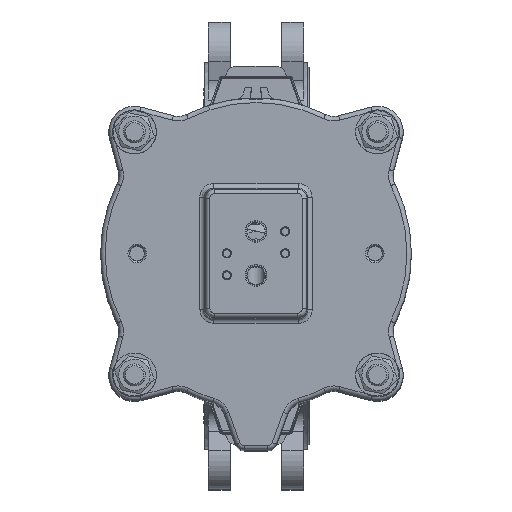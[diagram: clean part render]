
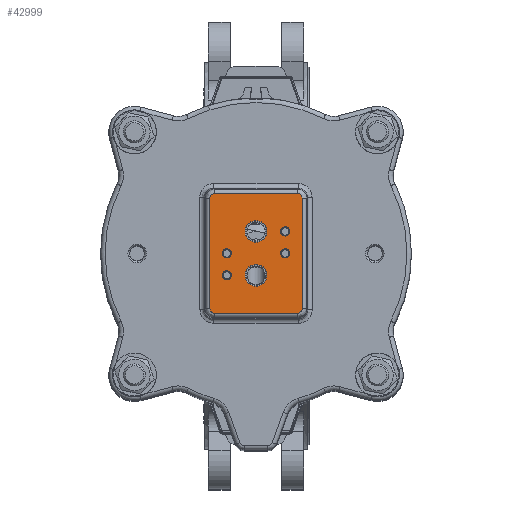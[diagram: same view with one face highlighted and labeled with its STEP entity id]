
A CAD part, top view. The second image highlights one B-rep face of the part: STEP entity #42999.
In plain terms, the highlighted planar face has unit normal (0, 0, 1).
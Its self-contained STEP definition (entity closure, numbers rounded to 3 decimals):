
#903=ELLIPSE('',#46031,2.519,2.5);
#904=ELLIPSE('',#46032,2.519,2.5);
#905=ELLIPSE('',#46033,2.519,2.5);
#906=ELLIPSE('',#46034,2.519,2.5);
#1235=FACE_BOUND('',#12470,.T.);
#1236=FACE_BOUND('',#12471,.T.);
#1237=FACE_BOUND('',#12472,.T.);
#1238=FACE_BOUND('',#12473,.T.);
#1239=FACE_BOUND('',#12474,.T.);
#1240=FACE_BOUND('',#12475,.T.);
#2136=PLANE('',#46030);
#3326=LINE('',#67786,#6154);
#3327=LINE('',#67790,#6155);
#3328=LINE('',#67794,#6156);
#3329=LINE('',#67797,#6157);
#6154=VECTOR('',#52423,10.);
#6155=VECTOR('',#52426,10.);
#6156=VECTOR('',#52429,10.);
#6157=VECTOR('',#52432,10.);
#9815=FACE_OUTER_BOUND('',#12469,.T.);
#12469=EDGE_LOOP('',(#30217,#30218,#30219,#30220,#30221,#30222,#30223,#30224));
#12470=EDGE_LOOP('',(#30225));
#12471=EDGE_LOOP('',(#30226));
#12472=EDGE_LOOP('',(#30227));
#12473=EDGE_LOOP('',(#30228));
#12474=EDGE_LOOP('',(#30229));
#12475=EDGE_LOOP('',(#30230));
#15429=CIRCLE('',#46029,2.5);
#15430=CIRCLE('',#46035,2.5);
#15431=CIRCLE('',#46036,2.5);
#15432=CIRCLE('',#46037,6.);
#15433=CIRCLE('',#46038,6.);
#15434=CIRCLE('',#46039,2.5);
#18309=VERTEX_POINT('',#67778);
#18310=VERTEX_POINT('',#67782);
#18311=VERTEX_POINT('',#67783);
#18312=VERTEX_POINT('',#67785);
#18313=VERTEX_POINT('',#67787);
#18314=VERTEX_POINT('',#67789);
#18315=VERTEX_POINT('',#67791);
#18316=VERTEX_POINT('',#67793);
#18317=VERTEX_POINT('',#67795);
#18318=VERTEX_POINT('',#67798);
#18319=VERTEX_POINT('',#67800);
#18320=VERTEX_POINT('',#67802);
#18321=VERTEX_POINT('',#67804);
#18322=VERTEX_POINT('',#67806);
#22830=EDGE_CURVE('',#18309,#18309,#15429,.T.);
#22831=EDGE_CURVE('',#18310,#18311,#903,.T.);
#22832=EDGE_CURVE('',#18312,#18310,#3326,.T.);
#22833=EDGE_CURVE('',#18313,#18312,#904,.T.);
#22834=EDGE_CURVE('',#18314,#18313,#3327,.T.);
#22835=EDGE_CURVE('',#18315,#18314,#905,.T.);
#22836=EDGE_CURVE('',#18316,#18315,#3328,.T.);
#22837=EDGE_CURVE('',#18317,#18316,#906,.T.);
#22838=EDGE_CURVE('',#18311,#18317,#3329,.T.);
#22839=EDGE_CURVE('',#18318,#18318,#15430,.T.);
#22840=EDGE_CURVE('',#18319,#18319,#15431,.T.);
#22841=EDGE_CURVE('',#18320,#18320,#15432,.T.);
#22842=EDGE_CURVE('',#18321,#18321,#15433,.T.);
#22843=EDGE_CURVE('',#18322,#18322,#15434,.T.);
#30217=ORIENTED_EDGE('',*,*,#22831,.F.);
#30218=ORIENTED_EDGE('',*,*,#22832,.F.);
#30219=ORIENTED_EDGE('',*,*,#22833,.F.);
#30220=ORIENTED_EDGE('',*,*,#22834,.F.);
#30221=ORIENTED_EDGE('',*,*,#22835,.F.);
#30222=ORIENTED_EDGE('',*,*,#22836,.F.);
#30223=ORIENTED_EDGE('',*,*,#22837,.F.);
#30224=ORIENTED_EDGE('',*,*,#22838,.F.);
#30225=ORIENTED_EDGE('',*,*,#22839,.F.);
#30226=ORIENTED_EDGE('',*,*,#22840,.F.);
#30227=ORIENTED_EDGE('',*,*,#22841,.F.);
#30228=ORIENTED_EDGE('',*,*,#22842,.F.);
#30229=ORIENTED_EDGE('',*,*,#22843,.F.);
#30230=ORIENTED_EDGE('',*,*,#22830,.F.);
#42999=ADVANCED_FACE('',(#9815,#1235,#1236,#1237,#1238,#1239,#1240),#2136,
 .F.);
#46029=AXIS2_PLACEMENT_3D('',#67780,#52417,#52418);
#46030=AXIS2_PLACEMENT_3D('',#67781,#52419,#52420);
#46031=AXIS2_PLACEMENT_3D('',#67784,#52421,#52422);
#46032=AXIS2_PLACEMENT_3D('',#67788,#52424,#52425);
#46033=AXIS2_PLACEMENT_3D('',#67792,#52427,#52428);
#46034=AXIS2_PLACEMENT_3D('',#67796,#52430,#52431);
#46035=AXIS2_PLACEMENT_3D('',#67799,#52433,#52434);
#46036=AXIS2_PLACEMENT_3D('',#67801,#52435,#52436);
#46037=AXIS2_PLACEMENT_3D('',#67803,#52437,#52438);
#46038=AXIS2_PLACEMENT_3D('',#67805,#52439,#52440);
#46039=AXIS2_PLACEMENT_3D('',#67807,#52441,#52442);
#52417=DIRECTION('center_axis',(0.,0.,
1.));
#52418=DIRECTION('ref_axis',(0.,1.,0.));
#52419=DIRECTION('center_axis',(0.,0.,
-1.));
#52420=DIRECTION('ref_axis',(0.,1.,0.));
#52421=DIRECTION('center_axis',(0.,0.,
-1.));
#52422=DIRECTION('ref_axis',(-0.707,-0.707,0.));
#52423=DIRECTION('',(-1.,0.,0.));
#52424=DIRECTION('center_axis',(0.,0.,
-1.));
#52425=DIRECTION('ref_axis',(0.707,-0.707,0.));
#52426=DIRECTION('',(0.,-1.,0.));
#52427=DIRECTION('center_axis',(0.,0.,
-1.));
#52428=DIRECTION('ref_axis',(0.707,0.707,0.));
#52429=DIRECTION('',(1.,0.,0.));
#52430=DIRECTION('center_axis',(0.,0.,
-1.));
#52431=DIRECTION('ref_axis',(-0.707,0.707,0.));
#52432=DIRECTION('',(0.,1.,0.));
#52433=DIRECTION('center_axis',(0.,0.,
1.));
#52434=DIRECTION('ref_axis',(0.,1.,0.));
#52435=DIRECTION('center_axis',(0.,0.,
1.));
#52436=DIRECTION('ref_axis',(0.,1.,0.));
#52437=DIRECTION('center_axis',(0.,0.,
1.));
#52438=DIRECTION('ref_axis',(0.,1.,0.));
#52439=DIRECTION('center_axis',(0.,0.,
1.));
#52440=DIRECTION('ref_axis',(0.,1.,0.));
#52441=DIRECTION('center_axis',(0.,0.,
1.));
#52442=DIRECTION('ref_axis',(0.,1.,0.));
#67778=CARTESIAN_POINT('',(16.,9.5,808.5));
#67780=CARTESIAN_POINT('Origin',(16.,12.,808.5));
#67781=CARTESIAN_POINT('Origin',(0.,0.,
808.5));
#67782=CARTESIAN_POINT('',(-22.719,-32.709,808.5));
#67783=CARTESIAN_POINT('',(-25.209,-30.219,808.5));
#67784=CARTESIAN_POINT('Origin',(-22.7,-30.2,808.5));
#67785=CARTESIAN_POINT('',(22.719,-32.709,808.5));
#67786=CARTESIAN_POINT('',(-13.75,-32.709,808.5));
#67787=CARTESIAN_POINT('',(25.209,-30.219,808.5));
#67788=CARTESIAN_POINT('Origin',(22.7,-30.2,808.5));
#67789=CARTESIAN_POINT('',(25.209,30.219,808.5));
#67790=CARTESIAN_POINT('',(25.209,-17.5,808.5));
#67791=CARTESIAN_POINT('',(22.719,32.709,808.5));
#67792=CARTESIAN_POINT('Origin',(22.7,30.2,808.5));
#67793=CARTESIAN_POINT('',(-22.719,32.709,808.5));
#67794=CARTESIAN_POINT('',(13.75,32.709,808.5));
#67795=CARTESIAN_POINT('',(-25.209,30.219,808.5));
#67796=CARTESIAN_POINT('Origin',(-22.7,30.2,808.5));
#67797=CARTESIAN_POINT('',(-25.209,17.5,808.5));
#67798=CARTESIAN_POINT('',(16.,-2.5,808.5));
#67799=CARTESIAN_POINT('Origin',(16.,0.,
808.5));
#67800=CARTESIAN_POINT('',(-16.,-14.5,808.5));
#67801=CARTESIAN_POINT('Origin',(-16.,-12.,808.5));
#67802=CARTESIAN_POINT('',(0.,-18.,808.5));
#67803=CARTESIAN_POINT('Origin',(0.,-12.,
808.5));
#67804=CARTESIAN_POINT('',(0.,6.,808.5));
#67805=CARTESIAN_POINT('Origin',(0.,12.,
808.5));
#67806=CARTESIAN_POINT('',(-16.,-2.5,808.5));
#67807=CARTESIAN_POINT('Origin',(-16.,0.,
808.5));
